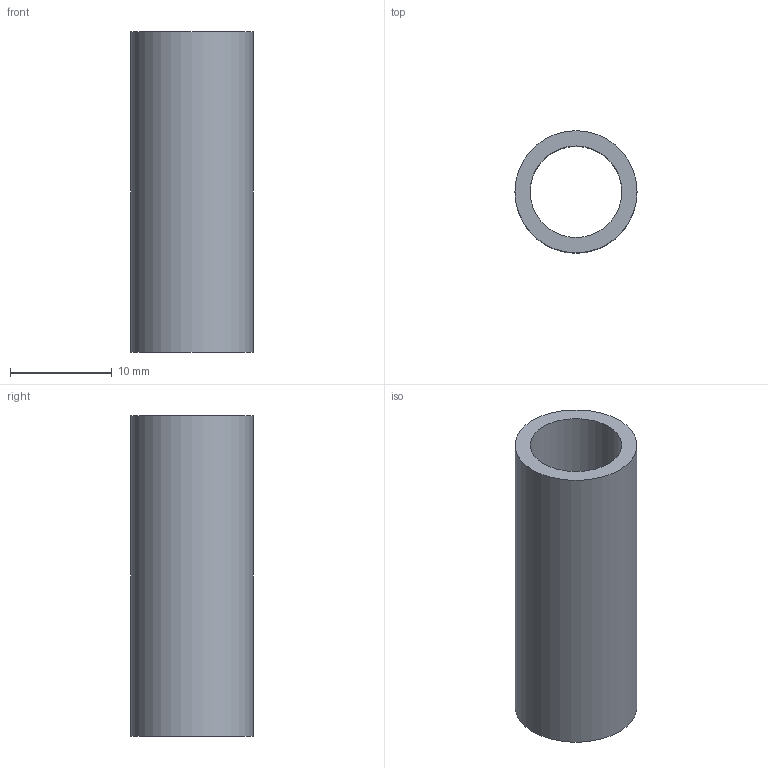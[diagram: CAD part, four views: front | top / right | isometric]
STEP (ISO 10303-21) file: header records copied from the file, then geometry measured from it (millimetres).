
FILE_DESCRIPTION(('Open CASCADE Model'),'2;1');
FILE_NAME('Open CASCADE Shape Model','2026-10-19T10:09:20',('Author'),( 'Open CASCADE'),'Open CASCADE STEP processor 8.0','Open CASCADE 8.0' ,'Unknown');
FILE_SCHEMA(('AUTOMOTIVE_DESIGN { 1 0 10303 214 1 1 1 1 }'));
Length unit declared in the file: millimetre
Products named in the file (1): MG10_CASQUILLO_12x9_L31p5_P05 87
Bounding box: 12 x 12 x 31.5 mm (x, y, z)
Volume: 1558.6 mm3; surface area: 2177.1 mm2
Topology: 1 solids, 1 shells, 4 faces, 6 edges, 4 vertices
Faces by surface type: cylinder 2, plane 2
Full cylindrical faces by diameter (mm): 9 x1, 12 x1
Entity records: 198 total; most frequent: CARTESIAN_POINT 51, DIRECTION 28, ORIENTED_EDGE 12, PCURVE 12, DEFINITIONAL_REPRESENTATION 12, LINE 10, VECTOR 10, AXIS2_PLACEMENT_3D 9
